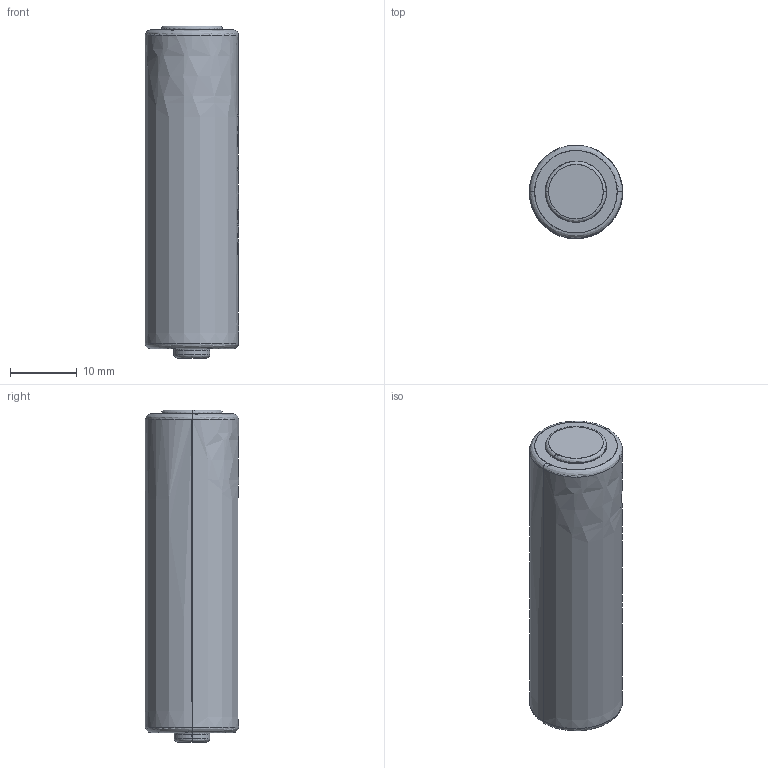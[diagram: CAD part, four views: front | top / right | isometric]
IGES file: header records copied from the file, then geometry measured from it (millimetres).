
Start section: SolidWorks IGES file using analytic representation for surfaces
Global section: file name: C:\Users\AndreBernot\Downloads\K-RACER-L_3D_SW\K-RACER-L_3D_SW\PILE 1.5V LR6 Bleu.IGS; native system: SolidWorks 2015; preprocessor: SolidWorks 2015; author: AndreBernot; date: 170922.151352; units: millimetre
Bounding box: 14.03 x 14 x 49.9 mm (x, y, z)
Surface area: 2429.7 mm2 (no closed solid volume)
Topology: 0 solids, 0 shells, 117 faces, 1547 edges, 1547 vertices
Faces by surface type: bspline 96, revolution 21
